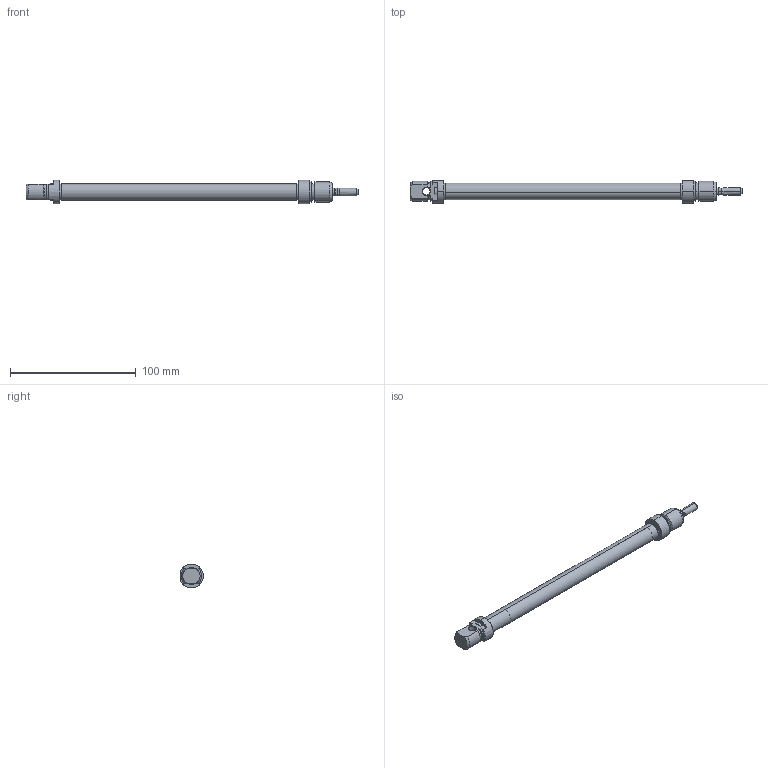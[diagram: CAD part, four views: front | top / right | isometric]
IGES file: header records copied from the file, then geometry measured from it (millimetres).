
Start section: SolidWorks IGES file using analytic representation for surfaces
Global section: file name: K:\Disegni Esecutivi\Cilindri\2_DISEGNI_cilindri_in_produzione\2_Minicilindri ISO 6432\1Minisolidworks\3_minicilindro iso 6432_12 solidworks\complessivomini12\MF012\MF012_PIENO\MF0120160A.igs; native system: SolidWorks 2011; preprocessor: SolidWorks 2011; author: cad01; date: 110505.180546; units: millimetre
Bounding box: 264.5 x 18 x 19 mm (x, y, z)
Surface area: 21515 mm2 (no closed solid volume)
Topology: 0 solids, 0 shells, 115 faces, 1818 edges, 1818 vertices
Faces by surface type: revolution 75, bspline 40
